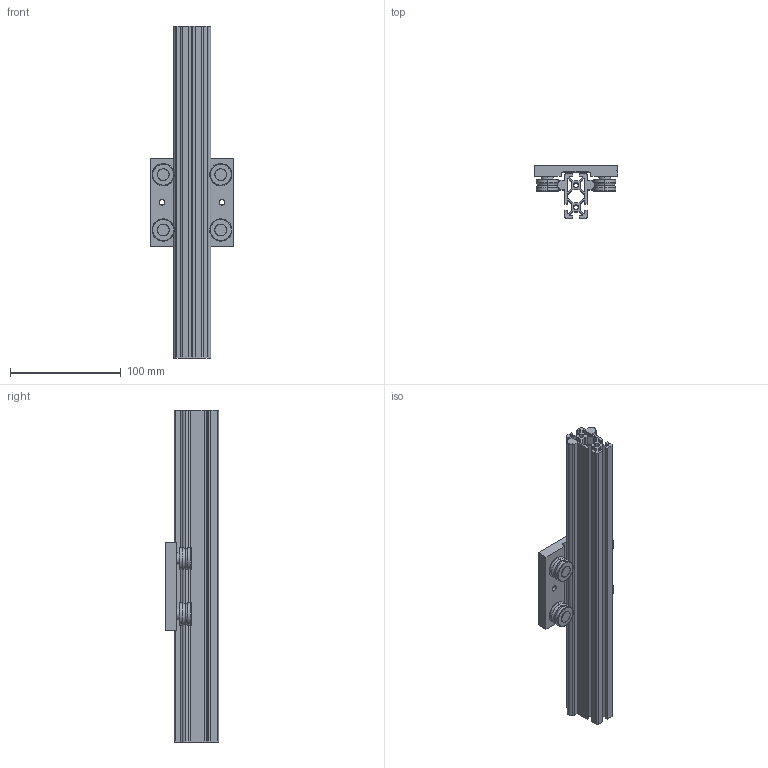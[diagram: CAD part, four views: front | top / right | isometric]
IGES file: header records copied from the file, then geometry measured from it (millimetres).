
Start section: SolidWorks IGES file using analytic representation for surfaces
Bounding box: 75 x 48 x 300 mm (x, y, z)
Surface area: 129698.9 mm2 (no closed solid volume)
Topology: 0 solids, 0 shells, 359 faces, 4434 edges, 4434 vertices
Faces by surface type: bspline 203, revolution 156
